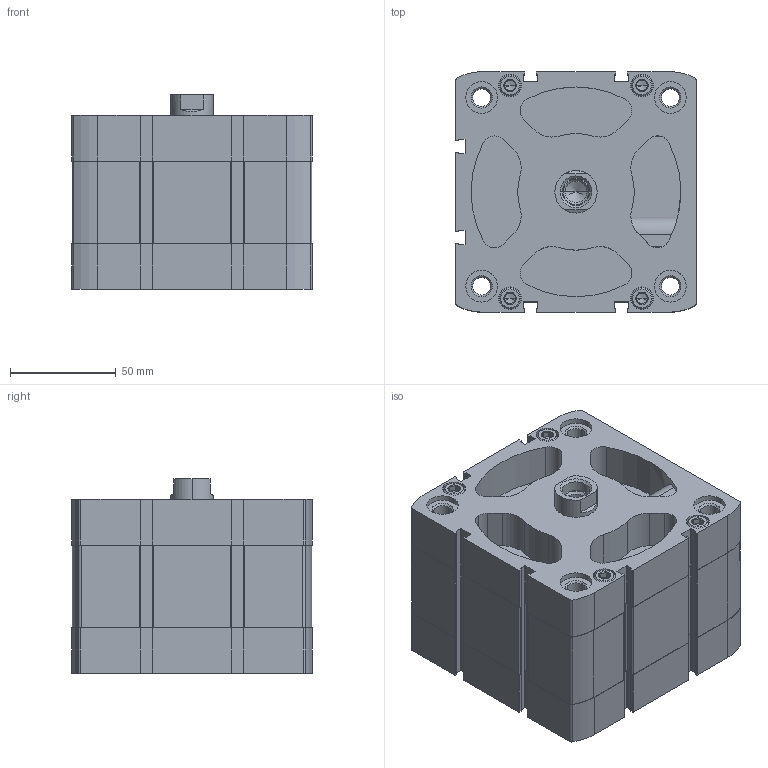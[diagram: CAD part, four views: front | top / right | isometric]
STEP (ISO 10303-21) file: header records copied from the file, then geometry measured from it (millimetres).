
FILE_DESCRIPTION (( 'STEP AP203' ), '1' );
FILE_NAME ('CCN100-15F.STEP', '2020-06-05T18:12:36', ( '' ), ( '' ), 'SwSTEP 2.0', 'SolidWorks 2019', '' );
FILE_SCHEMA (( 'CONFIG_CONTROL_DESIGN' ));
Length unit declared in the file: millimetre
Products named in the file (1): CCN100-15F
Bounding box: 113.5 x 113.5 x 91.8 mm (x, y, z)
Volume: 752436.3 mm3; surface area: 156354.9 mm2
Topology: 2 solids, 2 shells, 628 faces, 1631 edges, 1043 vertices
Faces by surface type: plane 284, cylinder 270, cone 74
Entity records: 20342 total; most frequent: CARTESIAN_POINT 4507, DIRECTION 3451, ORIENTED_EDGE 3226, EDGE_CURVE 1613, AXIS2_PLACEMENT_3D 1281, VERTEX_POINT 1043, VECTOR 889, LINE 889
